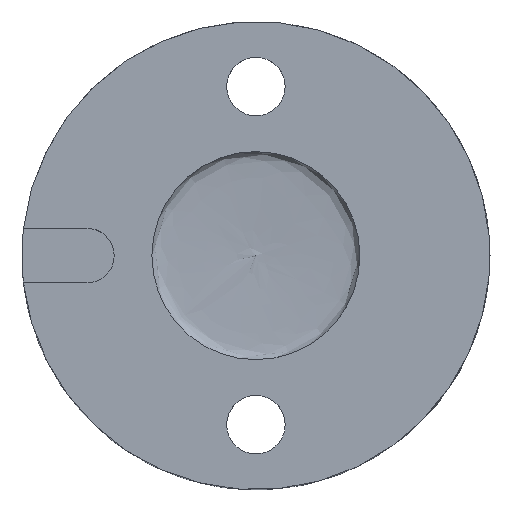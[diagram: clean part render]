
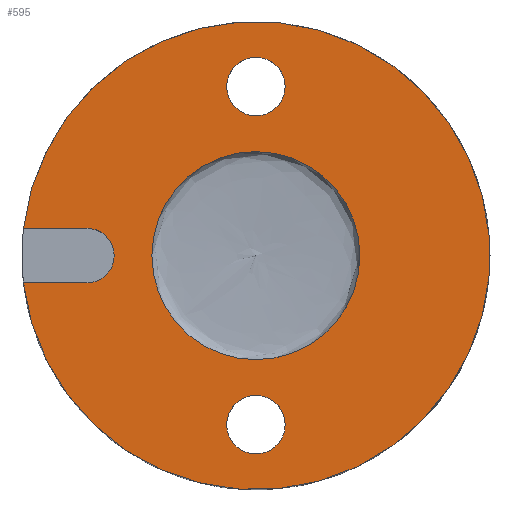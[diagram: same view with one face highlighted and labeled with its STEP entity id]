
A CAD part, top view. The second image highlights one B-rep face of the part: STEP entity #595.
In plain terms, the highlighted planar face has unit normal (0, 0, 1).
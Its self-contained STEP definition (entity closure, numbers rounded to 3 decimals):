
#173=CARTESIAN_POINT('',(-17.877,2.1,10.0));
#174=VERTEX_POINT('',#173);
#181=CARTESIAN_POINT('',(-17.877,-2.1,10.0));
#182=VERTEX_POINT('',#181);
#183=CARTESIAN_POINT('',(0.0,0.0,10.0));
#184=DIRECTION('',(0.0,0.0,-1.0));
#185=DIRECTION('',(-1.0,0.0,0.0));
#186=AXIS2_PLACEMENT_3D('',#183,#184,#185);
#187=CIRCLE('',#186,18.0);
#188=EDGE_CURVE('',#174,#182,#187,.T.);
#314=CARTESIAN_POINT('',(2.25,13.0,10.0));
#315=VERTEX_POINT('',#314);
#316=CARTESIAN_POINT('',(0.0,13.0,10.0));
#317=DIRECTION('',(0.0,0.0,-1.0));
#318=DIRECTION('',(-1.0,0.0,0.0));
#319=AXIS2_PLACEMENT_3D('',#316,#317,#318);
#320=CIRCLE('',#319,2.25);
#321=EDGE_CURVE('',#315,#315,#320,.T.);
#424=CARTESIAN_POINT('',(-2.25,-13.0,10.0));
#425=VERTEX_POINT('',#424);
#426=CARTESIAN_POINT('',(0.,-13.0,10.0));
#427=DIRECTION('',(0.0,0.0,-1.0));
#428=DIRECTION('',(1.0,0.0,0.0));
#429=AXIS2_PLACEMENT_3D('',#426,#427,#428);
#430=CIRCLE('',#429,2.25);
#431=EDGE_CURVE('',#425,#425,#430,.T.);
#543=CARTESIAN_POINT('',(8.0,0.,10.0));
#544=VERTEX_POINT('',#543);
#545=CARTESIAN_POINT('',(0.0,0.0,10.0));
#546=DIRECTION('',(0.0,0.0,-1.0));
#547=DIRECTION('',(-1.0,0.0,0.0));
#548=AXIS2_PLACEMENT_3D('',#545,#546,#547);
#549=CIRCLE('',#548,8.0);
#550=EDGE_CURVE('',#544,#544,#549,.T.);
#555=CARTESIAN_POINT('',(0.0,0.0,10.0));
#556=DIRECTION('',(0.0,0.0,-1.0));
#557=DIRECTION('',(-1.0,0.0,0.0));
#558=AXIS2_PLACEMENT_3D('',#555,#556,#557);
#559=PLANE('',#558);
#560=CARTESIAN_POINT('',(-13.0,2.1,10.0));
#561=VERTEX_POINT('',#560);
#562=CARTESIAN_POINT('',(-17.877,2.1,10.0));
#563=DIRECTION('',(1.0,0.0,0.0));
#564=VECTOR('',#563,4.877);
#565=LINE('',#562,#564);
#566=EDGE_CURVE('',#174,#561,#565,.T.);
#567=ORIENTED_EDGE('',*,*,#566,.T.);
#568=CARTESIAN_POINT('',(-13.0,-2.1,10.0));
#569=VERTEX_POINT('',#568);
#570=CARTESIAN_POINT('',(-13.0,0.0,10.0));
#571=DIRECTION('',(0.0,0.0,-1.0));
#572=DIRECTION('',(0.0,1.0,0.0));
#573=AXIS2_PLACEMENT_3D('',#570,#571,#572);
#574=CIRCLE('',#573,2.1);
#575=EDGE_CURVE('',#561,#569,#574,.T.);
#576=ORIENTED_EDGE('',*,*,#575,.T.);
#577=CARTESIAN_POINT('',(-13.0,-2.1,10.0));
#578=DIRECTION('',(-1.0,0.0,0.0));
#579=VECTOR('',#578,4.877);
#580=LINE('',#577,#579);
#581=EDGE_CURVE('',#569,#182,#580,.T.);
#582=ORIENTED_EDGE('',*,*,#581,.T.);
#583=ORIENTED_EDGE('',*,*,#188,.F.);
#584=EDGE_LOOP('',(#567,#576,#582,#583));
#585=FACE_OUTER_BOUND('',#584,.T.);
#586=ORIENTED_EDGE('',*,*,#321,.T.);
#587=EDGE_LOOP('',(#586));
#588=FACE_BOUND('',#587,.T.);
#589=ORIENTED_EDGE('',*,*,#431,.T.);
#590=EDGE_LOOP('',(#589));
#591=FACE_BOUND('',#590,.T.);
#592=ORIENTED_EDGE('',*,*,#550,.T.);
#593=EDGE_LOOP('',(#592));
#594=FACE_BOUND('',#593,.T.);
#595=ADVANCED_FACE('',(#585,#588,#591,#594),#559,.F.);
